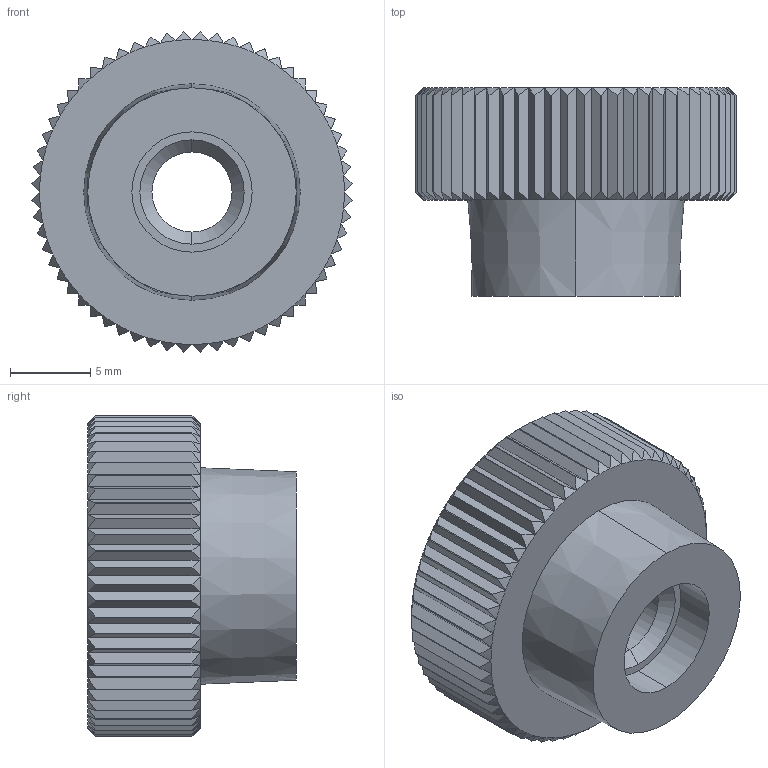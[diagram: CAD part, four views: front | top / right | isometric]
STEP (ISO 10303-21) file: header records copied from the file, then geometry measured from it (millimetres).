
FILE_DESCRIPTION (( 'STEP AP203' ), '1' );
FILE_NAME ('wn4662_20-m6.step', '2007-02-15T10:22:04', ( 'Magnus Fahlstrom' ), ( '' ), 'SwSTEP 2.0', 'SolidWorks 2007', '' );
FILE_SCHEMA (( 'CONFIG_CONTROL_DESIGN' ));
Length unit declared in the file: millimetre
Products named in the file (1): wn4662_20-m6
Bounding box: 19.98 x 13 x 19.98 mm (x, y, z)
Volume: 2365.2 mm3; surface area: 1767.2 mm2
Topology: 2 solids, 2 shells, 320 faces, 698 edges, 384 vertices
Faces by surface type: cone 128, plane 126, cylinder 66
Entity records: 8817 total; most frequent: CARTESIAN_POINT 2123, ORIENTED_EDGE 1396, DIRECTION 1364, EDGE_CURVE 698, AXIS2_PLACEMENT_3D 585, VERTEX_POINT 384, EDGE_LOOP 326, ADVANCED_FACE 320
